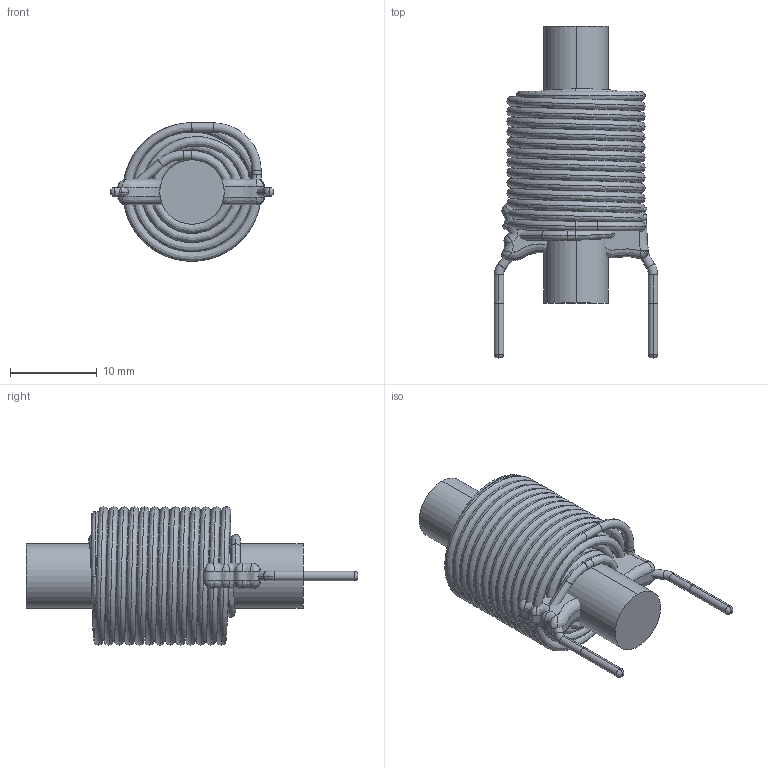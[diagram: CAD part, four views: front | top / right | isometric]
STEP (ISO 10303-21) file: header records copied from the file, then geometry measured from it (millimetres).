
FILE_DESCRIPTION (( 'STEP AP203' ), '1' );
FILE_NAME ('PV-154-05.STEP', '2020-10-20T14:10:57', ( 'Windows User' ), ( '' ), 'SwSTEP 2.0', 'SolidWorks 2015', '' );
FILE_SCHEMA (( 'CONFIG_CONTROL_DESIGN' ));
Length unit declared in the file: inch
Products named in the file (3): PV-154-05; PV-154-05 - COIL; PV-154-05 - CORE
Assembly tree (2 placements, depth 2):
  PV-154-05
    PV-154-05 - CORE
    PV-154-05 - COIL
Bounding box: 18.87 x 38.36 x 16 mm (x, y, z)
Volume: 3352.3 mm3; surface area: 7772.2 mm2
Topology: 14 solids, 14 shells, 128 faces, 278 edges, 162 vertices
Faces by surface type: bspline 52, plane 30, cylinder 26, torus 20
Entity records: 28119 total; most frequent: CARTESIAN_POINT 25485, ORIENTED_EDGE 524, DIRECTION 412, EDGE_CURVE 262, AXIS2_PLACEMENT_3D 189, VERTEX_POINT 162, EDGE_LOOP 128, FACE_OUTER_BOUND 128
